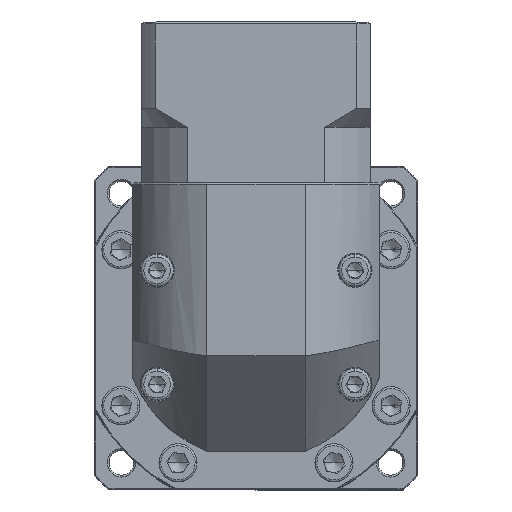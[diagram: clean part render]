
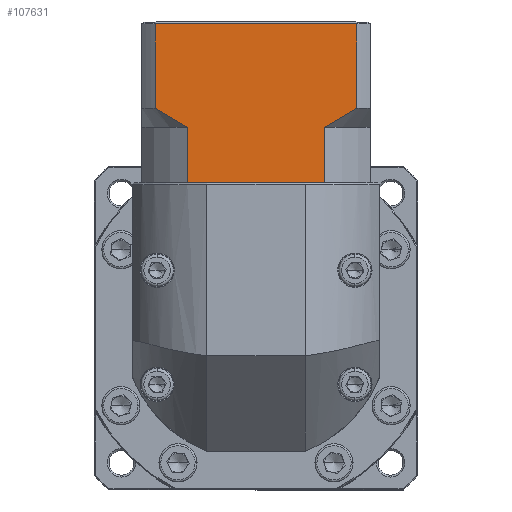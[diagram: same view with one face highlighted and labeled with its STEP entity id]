
A CAD part, top view. The second image highlights one B-rep face of the part: STEP entity #107631.
In plain terms, the highlighted planar face has unit normal (0, 0, 1).
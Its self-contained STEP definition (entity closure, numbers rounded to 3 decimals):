
#382 = VECTOR ( 'NONE', #15011, 1000. ) ;
#1175 = CARTESIAN_POINT ( 'NONE',  ( -102.303, 70.137, 46.3 ) ) ;
#2911 = ORIENTED_EDGE ( 'NONE', *, *, #97768, .T. ) ;
#11040 = ORIENTED_EDGE ( 'NONE', *, *, #86930, .F. ) ;
#11829 = CARTESIAN_POINT ( 'NONE',  ( -61.914, 70.94, 46.3 ) ) ;
#12491 = CARTESIAN_POINT ( 'NONE',  ( -64.796, 54.889, 46.3 ) ) ;
#12824 = PLANE ( 'NONE',  #67638 ) ;
#14501 = CARTESIAN_POINT ( 'NONE',  ( -64.796, 69.389, 46.3 ) ) ;
#15011 = DIRECTION ( 'NONE',  ( 1., 0., 0. ) ) ;
#15314 = DIRECTION ( 'NONE',  ( 0., 1., 0. ) ) ;
#16315 = VECTOR ( 'NONE', #104252, 1000. ) ;
#16705 = DIRECTION ( 'NONE',  ( 0., 1., 0. ) ) ;
#17939 = CARTESIAN_POINT ( 'NONE',  ( -65.787, 54.889, 46.3 ) ) ;
#20068 = CARTESIAN_POINT ( 'NONE',  ( -112.823, 54.889, 46.3 ) ) ;
#24147 = VECTOR ( 'NONE', #16705, 1000. ) ;
#26320 = FACE_OUTER_BOUND ( 'NONE', #128634, .T. ) ;
#27131 = VECTOR ( 'NONE', #118408, 1000. ) ;
#27140 = ORIENTED_EDGE ( 'NONE', *, *, #98010, .F. ) ;
#30092 = VERTEX_POINT ( 'NONE', #100743 ) ;
#31493 = ORIENTED_EDGE ( 'NONE', *, *, #58909, .F. ) ;
#31734 = VERTEX_POINT ( 'NONE', #74174 ) ;
#32241 = CARTESIAN_POINT ( 'NONE',  ( -63.339, 70.139, 46.3 ) ) ;
#37340 = EDGE_CURVE ( 'NONE', #31734, #124470, #90318, .T. ) ;
#39069 = VERTEX_POINT ( 'NONE', #130378 ) ;
#39283 = CARTESIAN_POINT ( 'NONE',  ( -64.796, 69.389, 46.3 ) ) ;
#41761 = VERTEX_POINT ( 'NONE', #75698 ) ;
#42756 = LINE ( 'NONE', #20068, #109234 ) ;
#42813 = CARTESIAN_POINT ( 'NONE',  ( -56.366, 69.389, 46.3 ) ) ;
#43237 = DIRECTION ( 'NONE',  ( 0., -1., 0. ) ) ;
#47592 = ORIENTED_EDGE ( 'NONE', *, *, #130319, .F. ) ;
#54216 = LINE ( 'NONE', #76371, #382 ) ;
#54652 = ORIENTED_EDGE ( 'NONE', *, *, #100799, .T. ) ;
#56561 = CARTESIAN_POINT ( 'NONE',  ( -112.823, 96.589, 46.3 ) ) ;
#58909 = EDGE_CURVE ( 'NONE', #91717, #66411, #62215, .T. ) ;
#61802 = CARTESIAN_POINT ( 'NONE',  ( -59.108, 72.614, 46.3 ) ) ;
#61811 = CARTESIAN_POINT ( 'NONE',  ( -109.281, 74.389, 46.3 ) ) ;
#62215 = LINE ( 'NONE', #14501, #16315 ) ;
#62336 = DIRECTION ( 'NONE',  ( 0., 1., 0. ) ) ;
#63068 = ORIENTED_EDGE ( 'NONE', *, *, #123506, .T. ) ;
#63731 = CARTESIAN_POINT ( 'NONE',  ( -112.823, 54.889, 46.3 ) ) ;
#65305 = CARTESIAN_POINT ( 'NONE',  ( -109.281, 69.389, 46.3 ) ) ;
#66411 = VERTEX_POINT ( 'NONE', #12491 ) ;
#67638 = AXIS2_PLACEMENT_3D ( 'NONE', #83504, #123795, #62336 ) ;
#68892 = EDGE_CURVE ( 'NONE', #105132, #96697, #54216, .T. ) ;
#70858 = LINE ( 'NONE', #65305, #71004 ) ;
#71004 = VECTOR ( 'NONE', #15314, 1000. ) ;
#71344 = LINE ( 'NONE', #63731, #80838 ) ;
#72293 = CARTESIAN_POINT ( 'NONE',  ( -106.542, 72.616, 46.3 ) ) ;
#73762 = DIRECTION ( 'NONE',  ( 1., 0., 0. ) ) ;
#74174 = CARTESIAN_POINT ( 'NONE',  ( -56.366, 96.589, 46.3 ) ) ;
#75698 = CARTESIAN_POINT ( 'NONE',  ( -109.281, 74.389, 46.3 ) ) ;
#76371 = CARTESIAN_POINT ( 'NONE',  ( -112.823, 54.889, 46.3 ) ) ;
#78061 = CARTESIAN_POINT ( 'NONE',  ( -99.86, 54.889, 46.3 ) ) ;
#78091 = CARTESIAN_POINT ( 'NONE',  ( -100.851, 69.389, 46.3 ) ) ;
#80838 = VECTOR ( 'NONE', #73762, 1000. ) ;
#81372 = CARTESIAN_POINT ( 'NONE',  ( -109.281, 96.589, 46.3 ) ) ;
#82535 = CARTESIAN_POINT ( 'NONE',  ( -56.366, 74.389, 46.3 ) ) ;
#83504 = CARTESIAN_POINT ( 'NONE',  ( -112.823, 97.089, 46.3 ) ) ;
#86930 = EDGE_CURVE ( 'NONE', #30092, #121252, #103170, .T. ) ;
#90318 = LINE ( 'NONE', #56561, #27131 ) ;
#91619 = ORIENTED_EDGE ( 'NONE', *, *, #37340, .T. ) ;
#91717 = VERTEX_POINT ( 'NONE', #129221 ) ;
#93666 = B_SPLINE_CURVE_WITH_KNOTS ( 'NONE', 3,
 ( #61811, #101601, #72293, #111770, #1175, #122777 ),
 .UNSPECIFIED., .F., .F.,
 ( 4, 2, 4 ),
 ( 0.052, 0.057, 0.062 ),
 .UNSPECIFIED. ) ;
#96697 = VERTEX_POINT ( 'NONE', #17939 ) ;
#96904 = B_SPLINE_CURVE_WITH_KNOTS ( 'NONE', 3,
 ( #39283, #32241, #11829, #61802, #102922, #82535 ),
 .UNSPECIFIED., .F., .F.,
 ( 4, 2, 4 ),
 ( 0.1, 0.104, 0.109 ),
 .UNSPECIFIED. ) ;
#97768 = EDGE_CURVE ( 'NONE', #41761, #121252, #93666, .T. ) ;
#98010 = EDGE_CURVE ( 'NONE', #41761, #124470, #70858, .T. ) ;
#99843 = CARTESIAN_POINT ( 'NONE',  ( -100.851, 69.389, 46.3 ) ) ;
#100743 = CARTESIAN_POINT ( 'NONE',  ( -100.851, 54.889, 46.3 ) ) ;
#100799 = EDGE_CURVE ( 'NONE', #30092, #105132, #42756, .T. ) ;
#101387 = DIRECTION ( 'NONE',  ( 1., 0., 0. ) ) ;
#101601 = CARTESIAN_POINT ( 'NONE',  ( -107.921, 73.49, 46.3 ) ) ;
#102894 = VECTOR ( 'NONE', #43237, 1000. ) ;
#102922 = CARTESIAN_POINT ( 'NONE',  ( -57.729, 73.488, 46.3 ) ) ;
#103170 = LINE ( 'NONE', #78091, #24147 ) ;
#104252 = DIRECTION ( 'NONE',  ( 0., -1., 0. ) ) ;
#105132 = VERTEX_POINT ( 'NONE', #78061 ) ;
#107631 = ADVANCED_FACE ( 'NONE', ( #26320 ), #12824, .F. ) ;
#107937 = ORIENTED_EDGE ( 'NONE', *, *, #121156, .T. ) ;
#109234 = VECTOR ( 'NONE', #101387, 1000. ) ;
#110995 = ORIENTED_EDGE ( 'NONE', *, *, #68892, .T. ) ;
#111770 = CARTESIAN_POINT ( 'NONE',  ( -103.735, 70.941, 46.3 ) ) ;
#118408 = DIRECTION ( 'NONE',  ( -1., 0., 0. ) ) ;
#121156 = EDGE_CURVE ( 'NONE', #96697, #66411, #71344, .T. ) ;
#121252 = VERTEX_POINT ( 'NONE', #99843 ) ;
#122777 = CARTESIAN_POINT ( 'NONE',  ( -100.851, 69.389, 46.3 ) ) ;
#123506 = EDGE_CURVE ( 'NONE', #91717, #39069, #96904, .T. ) ;
#123795 = DIRECTION ( 'NONE',  ( 0., 0., -1. ) ) ;
#124470 = VERTEX_POINT ( 'NONE', #81372 ) ;
#128634 = EDGE_LOOP ( 'NONE', ( #47592, #91619, #27140, #2911, #11040, #54652, #110995, #107937, #31493, #63068 ) ) ;
#129221 = CARTESIAN_POINT ( 'NONE',  ( -64.796, 69.389, 46.3 ) ) ;
#129816 = LINE ( 'NONE', #42813, #102894 ) ;
#130319 = EDGE_CURVE ( 'NONE', #31734, #39069, #129816, .T. ) ;
#130378 = CARTESIAN_POINT ( 'NONE',  ( -56.366, 74.389, 46.3 ) ) ;
